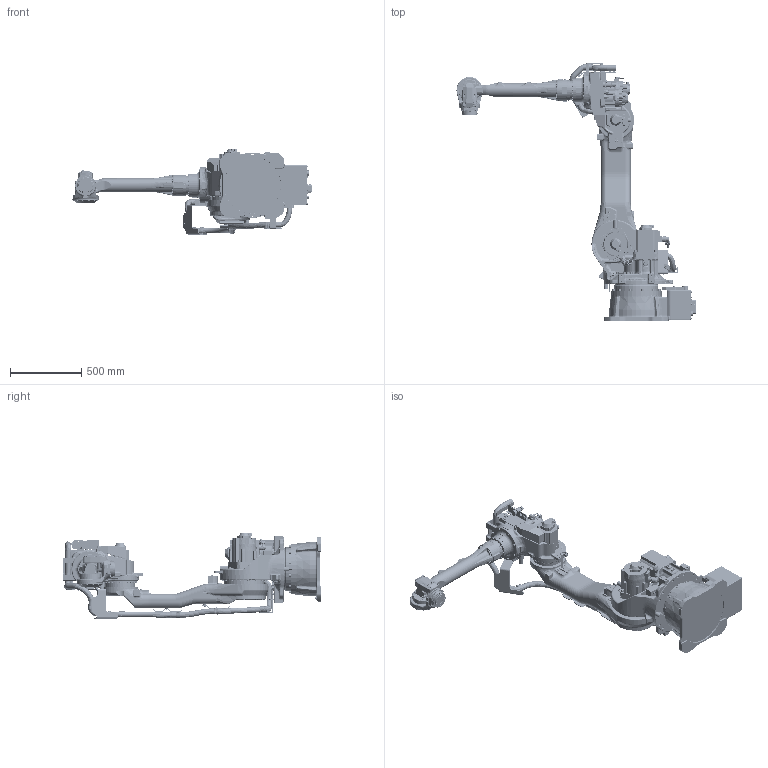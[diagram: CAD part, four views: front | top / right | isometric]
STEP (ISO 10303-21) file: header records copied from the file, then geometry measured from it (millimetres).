
FILE_DESCRIPTION((''),'2;1');
FILE_NAME('ASSY_VIEW_05VX80-A00_ASM','2021-05-10T',('ihirata'),('YASKAWA ELECTRIC CORPORATION'),'PRO/ENGINEER BY PARAMETRIC TECHNOLOGY CORPORATION, 2015030','PRO/ENGINEER BY PARAMETRIC TECHNOLOGY CORPORATION, 2015030','');
FILE_SCHEMA(('CONFIG_CONTROL_DESIGN'));
Products named in the file (7): BASE_VIEW_05VX80-A00; S_VIEW_05VX80-A00; L_VIEW_05VX80-A00; U_VIEW_05VX80-A00; B_VIEW_05VX80-A00; T_VIEW_05VX80-A00; ASSY_VIEW_05VX80-A00_ASM
Assembly tree (6 placements, depth 2):
  ASSY_VIEW_05VX80-A00_ASM
    BASE_VIEW_05VX80-A00
    S_VIEW_05VX80-A00
    L_VIEW_05VX80-A00
    U_VIEW_05VX80-A00
    B_VIEW_05VX80-A00
    T_VIEW_05VX80-A00
Bounding box: 1676.85 x 1811 x 600.7 mm (x, y, z)
Volume: 140347152.5 mm3; surface area: 5770280.9 mm2
Topology: 6 solids, 36 shells, 11160 faces, 28079 edges, 17484 vertices
Faces by surface type: cylinder 4016, plane 3838, bspline 1828, torus 721, cone 564, sphere 169, extrusion 16, revolution 8
Entity records: 458921 total; most frequent: CARTESIAN_POINT 200503, ORIENTED_EDGE 55820, DIRECTION 52191, EDGE_CURVE 27962, AXIS2_PLACEMENT_3D 20310, VERTEX_POINT 17482, EDGE_LOOP 12022, VECTOR 11563
